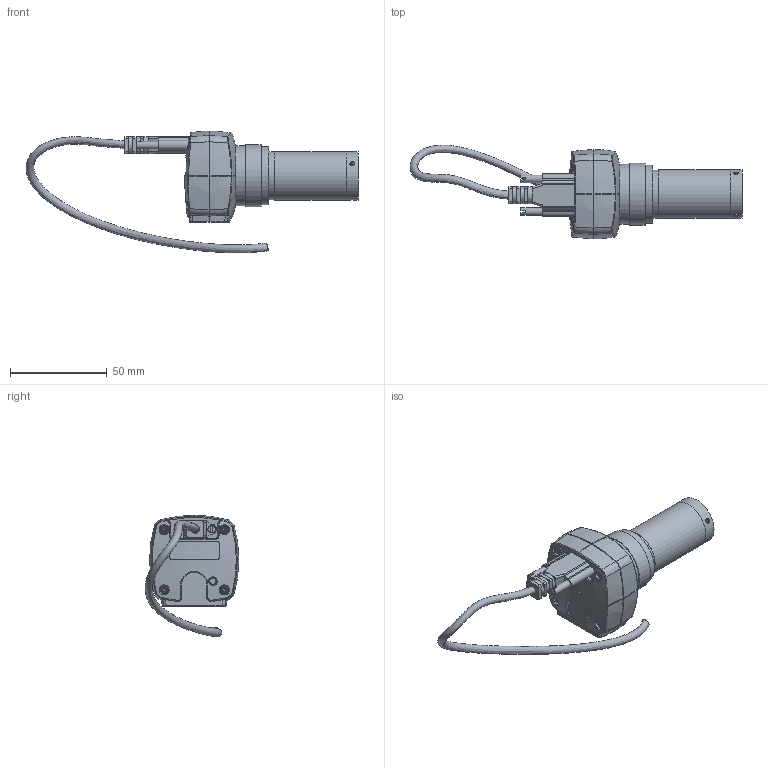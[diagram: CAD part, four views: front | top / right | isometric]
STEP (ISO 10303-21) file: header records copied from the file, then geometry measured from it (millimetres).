
FILE_DESCRIPTION(/* description */ (''),/* implementation_level */ '2;1');
FILE_NAME(/* name */ 'S:\Bureau-Technique\Vidéo\MA 730-040.stp',/* time_stamp */ '2017-03-30T08:44:04+02:00',/* author */ ('ms'),/* organization */ ('Marcel Aubert'),/* preprocessor_version */ 'ST-DEVELOPER v16.5',/* originating_system */ 'Autodesk Inventor 2017',/* authorisation */ '');
FILE_SCHEMA (('AUTOMOTIVE_DESIGN { 1 0 10303 214 3 1 1 }'));
Products named in the file (1): Pièce1
Bounding box: 171.2 x 48.29 x 62.68 mm (x, y, z)
Volume: 66903.7 mm3; surface area: 25044.5 mm2
Topology: 1 solids, 9 shells, 702 faces, 1808 edges, 1176 vertices
Faces by surface type: plane 274, cylinder 208, bspline 125, torus 41, cone 35, sphere 19
Full cylindrical faces by diameter (mm): 1.88 x4, 2 x1, 2.3 x1, 2.459 x6, 2.5 x2, 3 x1, 3.2 x1, 3.5 x4, 3.9 x2, 7.1 x2, 7.4 x2, 8.6 x3, 18 x1, 18.5 x1, 19 x1, 19.2 x1, 19.459 x1, 20 x1, 20.3 x1, 22 x2, 22.5 x1, 24.4 x1, 24.605 x2, 24.7 x1, 25 x3, 25.3 x1, 30 x1, 31 x1, 32 x1
Entity records: 40188 total; most frequent: CARTESIAN_POINT 23101, ORIENTED_EDGE 3378, DIRECTION 3372, EDGE_CURVE 1689, AXIS2_PLACEMENT_3D 1383, VERTEX_POINT 1142, EDGE_LOOP 849, STYLED_ITEM 703
